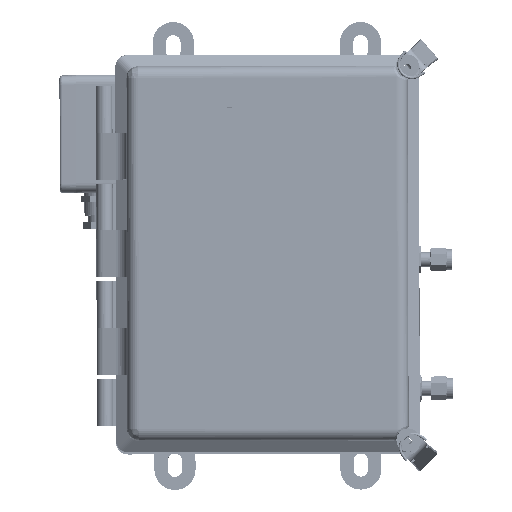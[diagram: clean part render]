
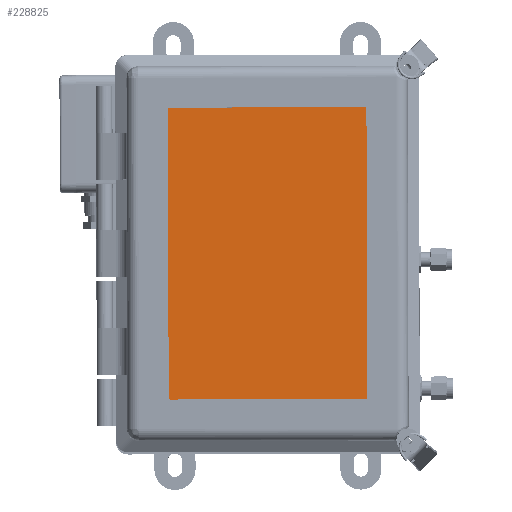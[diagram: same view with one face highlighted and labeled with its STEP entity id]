
A CAD part, top view. The second image highlights one B-rep face of the part: STEP entity #228825.
In plain terms, the highlighted planar face has unit normal (0, 0, 1).
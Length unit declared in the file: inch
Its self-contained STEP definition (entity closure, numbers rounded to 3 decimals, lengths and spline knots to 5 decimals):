
#8965 = VERTEX_POINT ( 'NONE', #150156 ) ;
#14221 = VERTEX_POINT ( 'NONE', #190959 ) ;
#17417 = VERTEX_POINT ( 'NONE', #152376 ) ;
#29061 = DIRECTION ( 'NONE',  ( 1., 0.002, 0. ) ) ;
#32601 = DIRECTION ( 'NONE',  ( -1., -0.002, 0. ) ) ;
#36156 = ORIENTED_EDGE ( 'NONE', *, *, #297489, .F. ) ;
#45419 = VECTOR ( 'NONE', #156274, 39.37008 ) ;
#51199 = ORIENTED_EDGE ( 'NONE', *, *, #309911, .F. ) ;
#53185 = ORIENTED_EDGE ( 'NONE', *, *, #286092, .F. ) ;
#60493 = ORIENTED_EDGE ( 'NONE', *, *, #184858, .F. ) ;
#70533 = CARTESIAN_POINT ( 'NONE',  ( 3.15244, -2.93612, 4.12941 ) ) ;
#80039 = LINE ( 'NONE', #260839, #298879 ) ;
#80560 = VERTEX_POINT ( 'NONE', #222619 ) ;
#98089 = VERTEX_POINT ( 'NONE', #250305 ) ;
#99774 = ORIENTED_EDGE ( 'NONE', *, *, #330836, .F. ) ;
#100895 = LINE ( 'NONE', #70533, #224736 ) ;
#102397 = AXIS2_PLACEMENT_3D ( 'NONE', #334097, #132915, #102605 ) ;
#102605 = DIRECTION ( 'NONE',  ( -0.002, 1., 0. ) ) ;
#103937 = LINE ( 'NONE', #310102, #45419 ) ;
#122172 = CARTESIAN_POINT ( 'NONE',  ( 3.13921, 3.56387, 4.12941 ) ) ;
#131606 = ORIENTED_EDGE ( 'NONE', *, *, #144502, .F. ) ;
#132322 = CARTESIAN_POINT ( 'NONE',  ( 3.15346, -3.43612, 4.12941 ) ) ;
#132394 = DIRECTION ( 'NONE',  ( 0.709, -0.706, 0. ) ) ;
#132915 = DIRECTION ( 'NONE',  ( 0., 0., -1. ) ) ;
#140735 = VECTOR ( 'NONE', #29061, 39.37008 ) ;
#144502 = EDGE_CURVE ( 'NONE', #17417, #80560, #204864, .T. ) ;
#150156 = CARTESIAN_POINT ( 'NONE',  ( 2.65346, -3.43713, 4.12946 ) ) ;
#152376 = CARTESIAN_POINT ( 'NONE',  ( -2.36179, 4.05268, 4.12993 ) ) ;
#156274 = DIRECTION ( 'NONE',  ( -0.002, 1., 0. ) ) ;
#158270 = FACE_OUTER_BOUND ( 'NONE', #220771, .T. ) ;
#164341 = LINE ( 'NONE', #132322, #199768 ) ;
#176848 = CARTESIAN_POINT ( 'NONE',  ( 3.1382, 4.06387, 4.12941 ) ) ;
#184858 = EDGE_CURVE ( 'NONE', #252743, #98089, #224169, .T. ) ;
#189390 = VECTOR ( 'NONE', #249529, 39.37008 ) ;
#190959 = CARTESIAN_POINT ( 'NONE',  ( -2.34653, -3.44731, 4.12993 ) ) ;
#199768 = VECTOR ( 'NONE', #32601, 39.37008 ) ;
#204864 = LINE ( 'NONE', #309654, #140735 ) ;
#220771 = EDGE_LOOP ( 'NONE', ( #53185, #99774, #36156, #60493, #51199, #131606 ) ) ;
#222619 = CARTESIAN_POINT ( 'NONE',  ( 2.6382, 4.06285, 4.12946 ) ) ;
#224169 = LINE ( 'NONE', #176848, #189390 ) ;
#224736 = VECTOR ( 'NONE', #229246, 39.37008 ) ;
#228825 = ADVANCED_FACE ( 'NONE', ( #158270 ), #261356, .F. ) ;
#229246 = DIRECTION ( 'NONE',  ( -0.706, -0.709, 0. ) ) ;
#249529 = DIRECTION ( 'NONE',  ( 0.002, -1., 0. ) ) ;
#250305 = CARTESIAN_POINT ( 'NONE',  ( 3.15244, -2.93612, 4.12941 ) ) ;
#252743 = VERTEX_POINT ( 'NONE', #122172 ) ;
#260839 = CARTESIAN_POINT ( 'NONE',  ( 2.6382, 4.06285, 4.12946 ) ) ;
#261356 = PLANE ( 'NONE',  #102397 ) ;
#286092 = EDGE_CURVE ( 'NONE', #14221, #17417, #103937, .T. ) ;
#297489 = EDGE_CURVE ( 'NONE', #98089, #8965, #100895, .T. ) ;
#298879 = VECTOR ( 'NONE', #132394, 39.37008 ) ;
#309654 = CARTESIAN_POINT ( 'NONE',  ( 3.1382, 4.06387, 4.12941 ) ) ;
#309911 = EDGE_CURVE ( 'NONE', #80560, #252743, #80039, .T. ) ;
#310102 = CARTESIAN_POINT ( 'NONE',  ( -2.36179, 4.05268, 4.12993 ) ) ;
#330836 = EDGE_CURVE ( 'NONE', #8965, #14221, #164341, .T. ) ;
#334097 = CARTESIAN_POINT ( 'NONE',  ( 3.1382, 4.06387, 4.12941 ) ) ;
